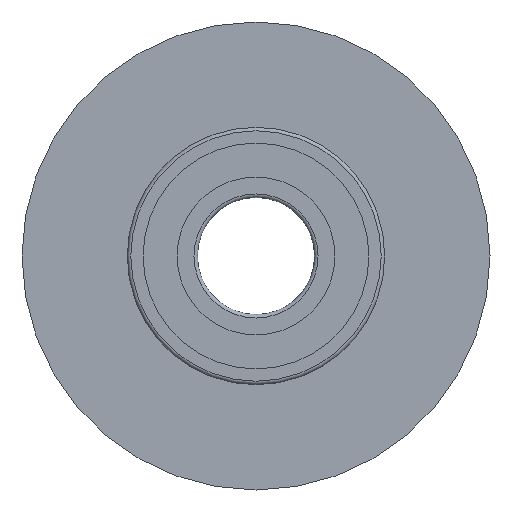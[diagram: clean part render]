
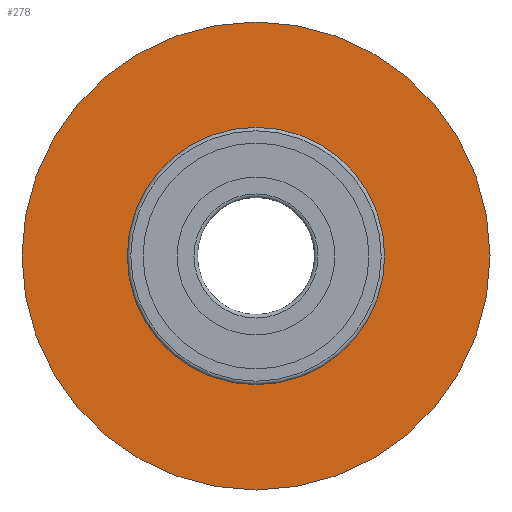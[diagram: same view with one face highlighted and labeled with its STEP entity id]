
A CAD part, left-side view. The second image highlights one B-rep face of the part: STEP entity #278.
In plain terms, the highlighted planar face has unit normal (-1, 0, 0).
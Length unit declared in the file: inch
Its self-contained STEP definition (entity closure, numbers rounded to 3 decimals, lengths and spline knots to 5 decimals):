
#251=CARTESIAN_POINT('',(112.91139,122.47152,0.));
#252=VERTEX_POINT('',#251);
#253=CARTESIAN_POINT('',(112.91139,112.47152,0.));
#254=DIRECTION('',(1.,0.,0.));
#255=DIRECTION('',(0.,1.,0.));
#256=AXIS2_PLACEMENT_3D('',#253,#254,#255);
#257=CIRCLE('',#256,10.);
#258=EDGE_CURVE('',#252,#252,#257,.T.);
#259=ORIENTED_EDGE('',*,*,#258,.F.);
#260=EDGE_LOOP('',(#259));
#261=FACE_OUTER_BOUND('',#260,.T.);
#262=CARTESIAN_POINT('',(112.91139,117.97152,0.));
#263=VERTEX_POINT('',#262);
#264=CARTESIAN_POINT('',(112.91139,112.47152,0.));
#265=DIRECTION('',(1.,0.,0.));
#266=DIRECTION('',(0.,1.,0.));
#267=AXIS2_PLACEMENT_3D('',#264,#265,#266);
#268=CIRCLE('',#267,5.5);
#269=EDGE_CURVE('',#263,#263,#268,.T.);
#270=ORIENTED_EDGE('',*,*,#269,.T.);
#271=EDGE_LOOP('',(#270));
#272=FACE_BOUND('',#271,.T.);
#273=CARTESIAN_POINT('',(112.91139,120.22152,0.));
#274=DIRECTION('',(-1.,0.,0.));
#275=DIRECTION('',(0.,-1.,0.));
#276=AXIS2_PLACEMENT_3D('',#273,#274,#275);
#277=PLANE('',#276);
#278=ADVANCED_FACE('',(#261,#272),#277,.T.);
